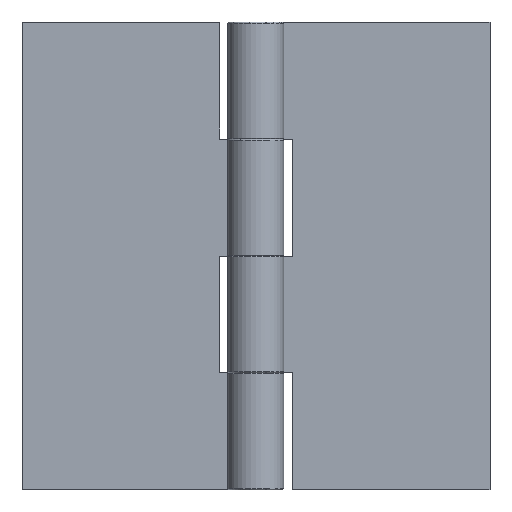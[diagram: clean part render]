
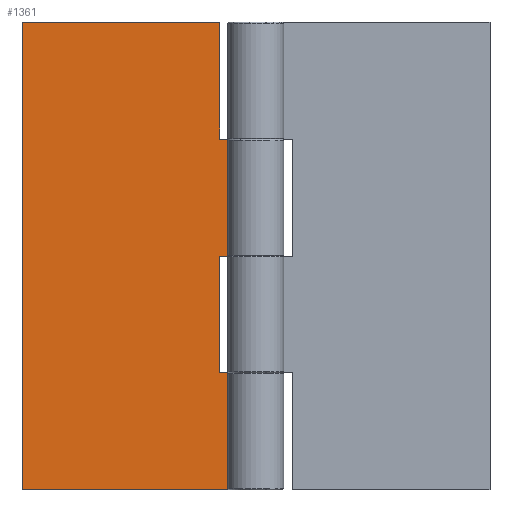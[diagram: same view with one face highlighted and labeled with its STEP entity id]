
A CAD part, front view. The second image highlights one B-rep face of the part: STEP entity #1361.
In plain terms, the highlighted planar face has unit normal (0, -1, 0).
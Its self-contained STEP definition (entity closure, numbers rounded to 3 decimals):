
#860=CARTESIAN_POINT('',(-28.,3.,-50.0));
#861=VERTEX_POINT('',#860);
#868=CARTESIAN_POINT('',(-28.,3.,50.0));
#869=VERTEX_POINT('',#868);
#870=CARTESIAN_POINT('',(-28.,3.,-50.0));
#871=DIRECTION('',(0.0,0.0,1.0));
#872=VECTOR('',#871,100.0);
#873=LINE('',#870,#872);
#874=EDGE_CURVE('',#861,#869,#873,.T.);
#903=CARTESIAN_POINT('',(22.,3.0,-50.0));
#904=VERTEX_POINT('',#903);
#912=CARTESIAN_POINT('',(22.,3.0,-50.0));
#913=DIRECTION('',(-1.0,0.0,0.0));
#914=VECTOR('',#913,50.0);
#915=LINE('',#912,#914);
#916=EDGE_CURVE('',#904,#861,#915,.T.);
#987=CARTESIAN_POINT('',(22.,3.0,0.0));
#988=VERTEX_POINT('',#987);
#996=CARTESIAN_POINT('',(14.269,3.,0.0));
#997=VERTEX_POINT('',#996);
#998=CARTESIAN_POINT('',(14.269,3.,0.0));
#999=DIRECTION('',(1.0,0.0,0.0));
#1000=VECTOR('',#999,7.731);
#1001=LINE('',#998,#1000);
#1002=EDGE_CURVE('',#997,#988,#1001,.T.);
#1117=CARTESIAN_POINT('',(14.269,3.,-25.0));
#1118=VERTEX_POINT('',#1117);
#1125=CARTESIAN_POINT('',(22.,3.0,-25.0));
#1126=VERTEX_POINT('',#1125);
#1127=CARTESIAN_POINT('',(22.,3.0,-25.0));
#1128=DIRECTION('',(-1.0,0.0,0.0));
#1129=VECTOR('',#1128,7.731);
#1130=LINE('',#1127,#1129);
#1131=EDGE_CURVE('',#1126,#1118,#1130,.T.);
#1159=CARTESIAN_POINT('',(14.269,3.,-25.0));
#1160=DIRECTION('',(0.0,0.0,1.0));
#1161=VECTOR('',#1160,25.0);
#1162=LINE('',#1159,#1161);
#1163=EDGE_CURVE('',#1118,#997,#1162,.T.);
#1178=CARTESIAN_POINT('',(14.269,3.,25.0));
#1179=VERTEX_POINT('',#1178);
#1180=CARTESIAN_POINT('',(14.269,3.,50.0));
#1181=VERTEX_POINT('',#1180);
#1182=CARTESIAN_POINT('',(14.269,3.,25.0));
#1183=DIRECTION('',(0.0,0.0,1.0));
#1184=VECTOR('',#1183,25.0);
#1185=LINE('',#1182,#1184);
#1186=EDGE_CURVE('',#1179,#1181,#1185,.T.);
#1212=CARTESIAN_POINT('',(22.,3.0,25.0));
#1213=VERTEX_POINT('',#1212);
#1214=CARTESIAN_POINT('',(22.,3.0,25.0));
#1215=DIRECTION('',(-1.0,0.0,0.0));
#1216=VECTOR('',#1215,7.731);
#1217=LINE('',#1214,#1216);
#1218=EDGE_CURVE('',#1213,#1179,#1217,.T.);
#1248=CARTESIAN_POINT('',(22.,3.0,-50.0));
#1249=DIRECTION('',(0.0,0.0,1.0));
#1250=VECTOR('',#1249,25.0);
#1251=LINE('',#1248,#1250);
#1252=EDGE_CURVE('',#904,#1126,#1251,.T.);
#1265=CARTESIAN_POINT('',(22.,3.0,0.0));
#1266=DIRECTION('',(0.0,0.0,1.0));
#1267=VECTOR('',#1266,25.0);
#1268=LINE('',#1265,#1267);
#1269=EDGE_CURVE('',#988,#1213,#1268,.T.);
#1311=CARTESIAN_POINT('',(14.269,3.,50.0));
#1312=DIRECTION('',(-1.0,0.0,0.0));
#1313=VECTOR('',#1312,42.269);
#1314=LINE('',#1311,#1313);
#1315=EDGE_CURVE('',#1181,#869,#1314,.T.);
#1344=CARTESIAN_POINT('',(16.804,3.0,-50.0));
#1345=DIRECTION('',(0.0,-1.0,0.0));
#1346=DIRECTION('',(0.0,0.0,-1.0));
#1347=AXIS2_PLACEMENT_3D('',#1344,#1345,#1346);
#1348=PLANE('',#1347);
#1349=ORIENTED_EDGE('',*,*,#1002,.T.);
#1350=ORIENTED_EDGE('',*,*,#1269,.T.);
#1351=ORIENTED_EDGE('',*,*,#1218,.T.);
#1352=ORIENTED_EDGE('',*,*,#1186,.T.);
#1353=ORIENTED_EDGE('',*,*,#1315,.T.);
#1354=ORIENTED_EDGE('',*,*,#874,.F.);
#1355=ORIENTED_EDGE('',*,*,#916,.F.);
#1356=ORIENTED_EDGE('',*,*,#1252,.T.);
#1357=ORIENTED_EDGE('',*,*,#1131,.T.);
#1358=ORIENTED_EDGE('',*,*,#1163,.T.);
#1359=EDGE_LOOP('',(#1349,#1350,#1351,#1352,#1353,#1354,#1355,#1356,#1357,#1358));
#1360=FACE_OUTER_BOUND('',#1359,.T.);
#1361=ADVANCED_FACE('',(#1360),#1348,.T.);
